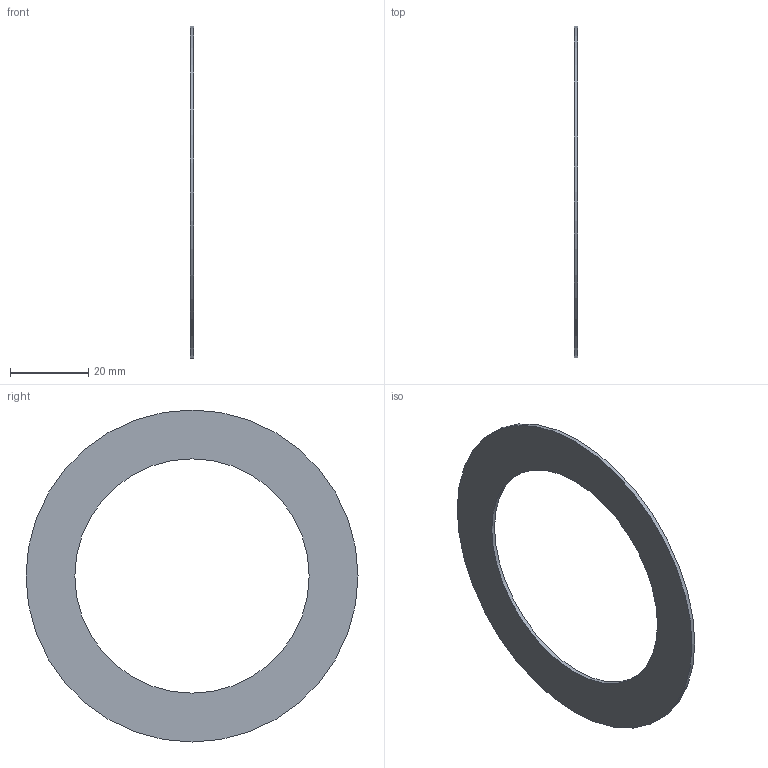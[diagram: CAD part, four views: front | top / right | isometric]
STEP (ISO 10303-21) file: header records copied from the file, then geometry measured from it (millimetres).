
FILE_DESCRIPTION(/* description */ (''),/* implementation_level */ '2;1');
FILE_NAME(/* name */ 'I:\Katalóg ihlovích ložísk\AXK---\AS--\AS 6085.stp',/* time_stamp */ '2016-12-12T14:09:33+01:00',/* author */ ('OUBALASKO'),/* organization */ (''),/* preprocessor_version */ 'ST-DEVELOPER v15.6',/* originating_system */ 'Autodesk Inventor 2015',/* authorisation */ '');
FILE_SCHEMA (('AUTOMOTIVE_DESIGN { 1 0 10303 214 3 1 1 }'));
Length unit declared in the file: millimetre
Products named in the file (1): AS 6085
Bounding box: 1 x 85 x 85 mm (x, y, z)
Volume: 2847.1 mm3; surface area: 6149.7 mm2
Topology: 1 solids, 1 shells, 4 faces, 6 edges, 4 vertices
Faces by surface type: plane 2, cylinder 2
Full cylindrical faces by diameter (mm): 60 x1, 85 x1
Entity records: 112 total; most frequent: DIRECTION 18, CARTESIAN_POINT 13, AXIS2_PLACEMENT_3D 9, EDGE_LOOP 8, ORIENTED_EDGE 8, FACE_BOUND 4, FACE_OUTER_BOUND 4, CIRCLE 4
